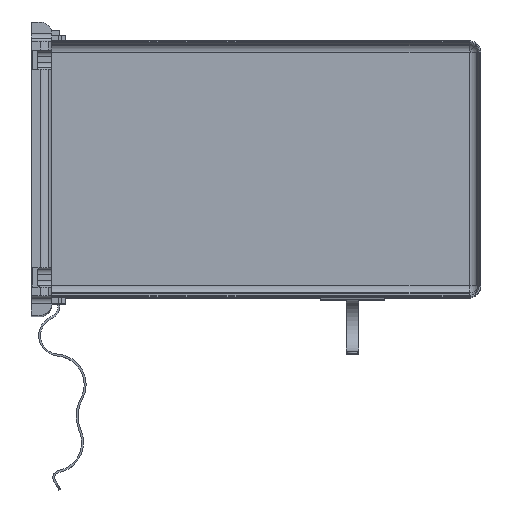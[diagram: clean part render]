
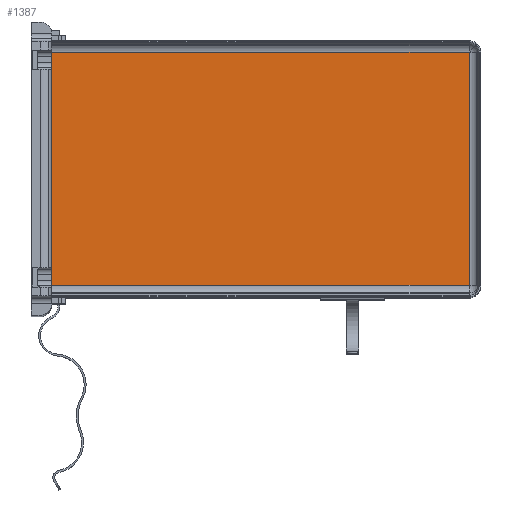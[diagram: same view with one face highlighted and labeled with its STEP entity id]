
A CAD part, top view. The second image highlights one B-rep face of the part: STEP entity #1387.
In plain terms, the highlighted planar face has unit normal (0, 0, 1).
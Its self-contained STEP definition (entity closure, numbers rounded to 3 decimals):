
#1387=ADVANCED_FACE('',(#3314),#3315,.T.);
#3314=FACE_OUTER_BOUND('',#5852,.T.);
#3315=PLANE('',#5853);
#5852=EDGE_LOOP('',(#10033,#10034,#10035,#10036));
#5853=AXIS2_PLACEMENT_3D('',#10037,#10038,#10039);
#10033=ORIENTED_EDGE('',*,*,#16101,.F.);
#10034=ORIENTED_EDGE('',*,*,#16319,.T.);
#10035=ORIENTED_EDGE('',*,*,#16329,.F.);
#10036=ORIENTED_EDGE('',*,*,#16275,.F.);
#10037=CARTESIAN_POINT('',(15.8,0.5,622.0));
#10038=DIRECTION('',(0.0,0.0,1.0));
#10039=DIRECTION('',(1.0,0.0,0.0));
#16101=EDGE_CURVE('',#19553,#19555,#19556,.T.);
#16275=EDGE_CURVE('',#19555,#19608,#19813,.T.);
#16319=EDGE_CURVE('',#19553,#19877,#19879,.T.);
#16329=EDGE_CURVE('',#19608,#19877,#19892,.T.);
#19553=VERTEX_POINT('',#24455);
#19555=VERTEX_POINT('',#24457);
#19556=LINE('',#24458,#24459);
#19608=VERTEX_POINT('',#24521);
#19813=LINE('',#24776,#24777);
#19877=VERTEX_POINT('',#24862);
#19879=LINE('',#24864,#24865);
#19892=LINE('',#24883,#24884);
#24455=CARTESIAN_POINT('',(15.8,190.5,622.0));
#24457=CARTESIAN_POINT('',(341.8,190.5,622.0));
#24458=CARTESIAN_POINT('',(15.8,190.5,622.0));
#24459=VECTOR('',#29966,10.0);
#24521=CARTESIAN_POINT('',(341.8,8.5,622.0));
#24776=CARTESIAN_POINT('',(341.8,50.,622.0));
#24777=VECTOR('',#30231,10.0);
#24862=CARTESIAN_POINT('',(15.8,8.5,622.0));
#24864=CARTESIAN_POINT('',(15.8,198.5,622.0));
#24865=VECTOR('',#30283,10.0);
#24883=CARTESIAN_POINT('',(15.8,8.5,622.0));
#24884=VECTOR('',#30298,10.0);
#29966=DIRECTION('',(1.0,0.,0.0));
#30231=DIRECTION('',(0.,-1.0,0.0));
#30283=DIRECTION('',(0.,-1.0,0.0));
#30298=DIRECTION('',(-1.0,0.,0.0));
